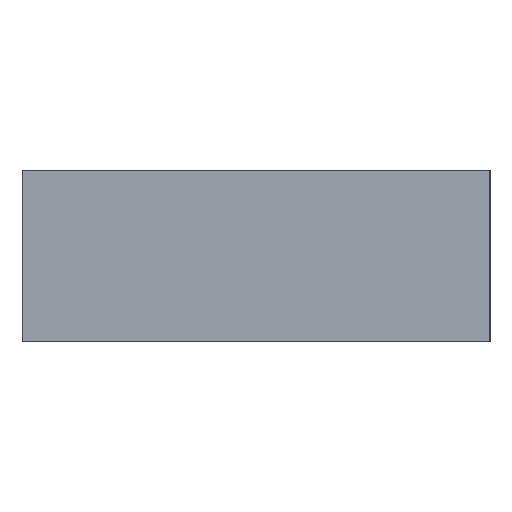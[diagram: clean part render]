
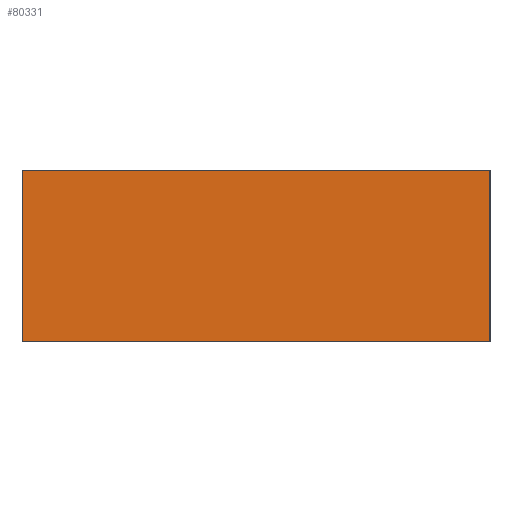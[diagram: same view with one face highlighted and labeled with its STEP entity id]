
A CAD part, top view. The second image highlights one B-rep face of the part: STEP entity #80331.
In plain terms, the highlighted planar face has unit normal (0, 0, 1).
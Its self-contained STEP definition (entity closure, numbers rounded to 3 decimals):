
#80331=ADVANCED_FACE('',(#80837),#104124,.T.);
#80837=FACE_OUTER_BOUND('',#81391,.T.);
#81391=EDGE_LOOP('',(#82712,#82713,#82714,#82715));
#82712=ORIENTED_EDGE('',*,*,#84883,.T.);
#82713=ORIENTED_EDGE('',*,*,#84886,.T.);
#82714=ORIENTED_EDGE('',*,*,#84884,.T.);
#82715=ORIENTED_EDGE('',*,*,#84885,.T.);
#84883=EDGE_CURVE('',#103170,#103171,#86428,.T.);
#84884=EDGE_CURVE('',#103172,#103173,#86429,.T.);
#84885=EDGE_CURVE('',#103173,#103170,#86430,.T.);
#84886=EDGE_CURVE('',#103171,#103172,#86431,.T.);
#86428=B_SPLINE_CURVE_WITH_KNOTS('',1,(#111947,#111948),.UNSPECIFIED.,.F.,
 .F.,(2,2),(1.,1099.),.UNSPECIFIED.);
#86429=B_SPLINE_CURVE_WITH_KNOTS('',1,(#111949,#111950),.UNSPECIFIED.,.F.,
 .F.,(2,2),(1.,1099.),.UNSPECIFIED.);
#86430=B_SPLINE_CURVE_WITH_KNOTS('',1,(#111951,#111952),.UNSPECIFIED.,.F.,
 .F.,(2,2),(1.,2999.),.UNSPECIFIED.);
#86431=B_SPLINE_CURVE_WITH_KNOTS('',1,(#111953,#111954),.UNSPECIFIED.,.F.,
 .F.,(2,2),(1.,2999.),.UNSPECIFIED.);
#103170=VERTEX_POINT('',#111903);
#103171=VERTEX_POINT('',#111904);
#103172=VERTEX_POINT('',#111905);
#103173=VERTEX_POINT('',#111906);
#104124=PLANE('',#104298);
#104298=AXIS2_PLACEMENT_3D('',#111838,#104456,$);
#104456=DIRECTION('',(0.,0.,1.));
#111838=CARTESIAN_POINT('',(-1358.607,-1422.129,705.965));
#111903=CARTESIAN_POINT('',(1640.393,-1421.129,705.965));
#111904=CARTESIAN_POINT('',(1640.393,-323.129,705.965));
#111905=CARTESIAN_POINT('',(-1357.607,-323.129,705.965));
#111906=CARTESIAN_POINT('',(-1357.607,-1421.129,705.965));
#111947=CARTESIAN_POINT('',(1640.393,-1421.129,705.965));
#111948=CARTESIAN_POINT('',(1640.393,-323.129,705.965));
#111949=CARTESIAN_POINT('',(-1357.607,-323.129,705.965));
#111950=CARTESIAN_POINT('',(-1357.607,-1421.129,705.965));
#111951=CARTESIAN_POINT('',(-1357.607,-1421.129,705.965));
#111952=CARTESIAN_POINT('',(1640.393,-1421.129,705.965));
#111953=CARTESIAN_POINT('',(1640.393,-323.129,705.965));
#111954=CARTESIAN_POINT('',(-1357.607,-323.129,705.965));
